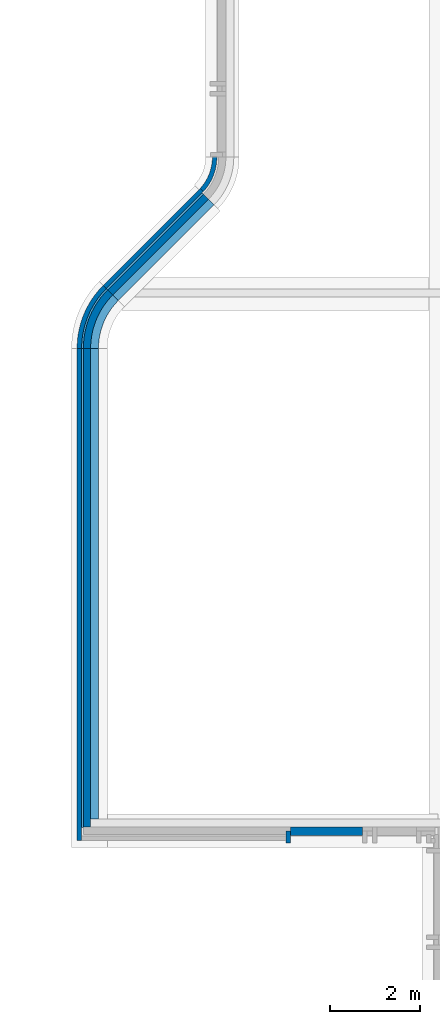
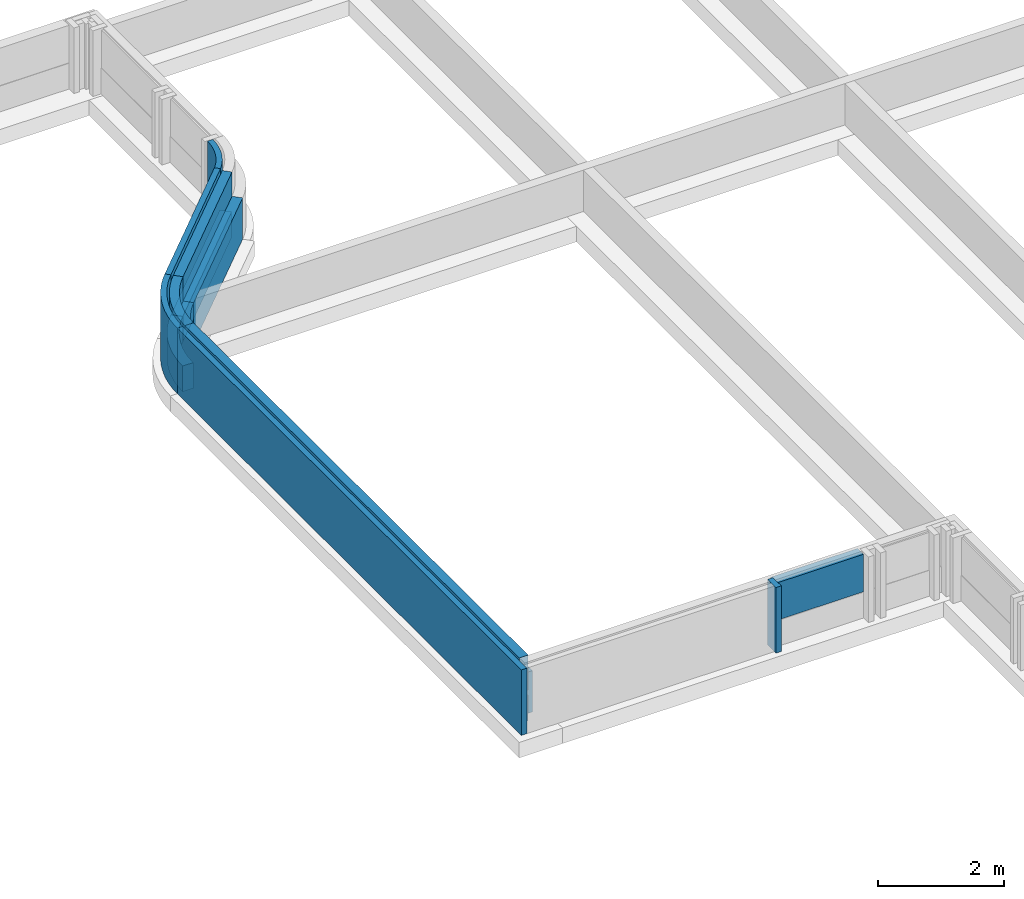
# One storey, part 2 of 15: 15 walls.
"""IFC2X3 building model written with IfcOpenShell, lengths in millimetres."""

from ifc_helpers import new_model, entity, si_unit, converted_unit, derived_unit, direction, frame, frame_2d, origin, place, context, subcontext, project, spatial, polyline, circle_curve, parameter, trimmed, segment, composite_curve, rectangle, outline, extrude, material, layer, layer_set, layer_usage, type_object, element, save


model = new_model("IFC2X3")

# Units and contexts
model_context = context("Model", 3, precision=0.01, world=origin(), true_north=direction((6.123031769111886e-17, 1.0)))
body_context = subcontext(model_context, "Body", "Model", "MODEL_VIEW")
ifc_project = project(units=[si_unit("LENGTHUNIT", "METRE", prefix="MILLI"), si_unit("AREAUNIT", "SQUARE_METRE"), si_unit("VOLUMEUNIT", "CUBIC_METRE"), converted_unit("PLANEANGLEUNIT", "DEGREE", entity("IfcRatioMeasure", 0.017453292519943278), si_unit("PLANEANGLEUNIT", "RADIAN"), dimensions=[0, 0, 0, 0, 0, 0, 0]), si_unit("MASSUNIT", "GRAM", prefix="KILO"), derived_unit("MASSDENSITYUNIT", [(si_unit("MASSUNIT", "GRAM", prefix="KILO"), 1), (si_unit("LENGTHUNIT", "METRE"), -3)]), derived_unit("IONCONCENTRATIONUNIT", [(si_unit("MASSUNIT", "GRAM", prefix="KILO"), 1), (si_unit("LENGTHUNIT", "METRE"), -3)]), derived_unit("MOMENTOFINERTIAUNIT", [(si_unit("LENGTHUNIT", "METRE"), 4)]), si_unit("TIMEUNIT", "SECOND"), si_unit("FREQUENCYUNIT", "HERTZ"), si_unit("THERMODYNAMICTEMPERATUREUNIT", "DEGREE_CELSIUS"), derived_unit("THERMALTRANSMITTANCEUNIT", [(si_unit("MASSUNIT", "GRAM", prefix="KILO"), 1), (si_unit("THERMODYNAMICTEMPERATUREUNIT", "KELVIN"), -1), (si_unit("TIMEUNIT", "SECOND"), -3)]), derived_unit("THERMALCONDUCTANCEUNIT", [(si_unit("MASSUNIT", "GRAM", prefix="KILO"), 1), (si_unit("THERMODYNAMICTEMPERATUREUNIT", "KELVIN"), -1), (si_unit("TIMEUNIT", "SECOND"), -3), (si_unit("LENGTHUNIT", "METRE"), 1)]), derived_unit("VOLUMETRICFLOWRATEUNIT", [(si_unit("LENGTHUNIT", "METRE"), 3), (si_unit("TIMEUNIT", "SECOND"), -1)]), derived_unit("MASSFLOWRATEUNIT", [(si_unit("MASSUNIT", "GRAM", prefix="KILO"), 1), (si_unit("TIMEUNIT", "SECOND"), -1)]), derived_unit("ROTATIONALFREQUENCYUNIT", [(si_unit("TIMEUNIT", "SECOND"), -1)]), si_unit("ELECTRICCURRENTUNIT", "AMPERE"), si_unit("ELECTRICVOLTAGEUNIT", "VOLT"), si_unit("POWERUNIT", "WATT"), si_unit("FORCEUNIT", "NEWTON", prefix="KILO"), si_unit("ILLUMINANCEUNIT", "LUX"), si_unit("LUMINOUSFLUXUNIT", "LUMEN"), si_unit("LUMINOUSINTENSITYUNIT", "CANDELA"), derived_unit("USERDEFINED", [(si_unit("MASSUNIT", "GRAM", prefix="KILO"), -1), (si_unit("LENGTHUNIT", "METRE"), -2), (si_unit("TIMEUNIT", "SECOND"), 3), (si_unit("LUMINOUSFLUXUNIT", "LUMEN"), 1)]), derived_unit("USERDEFINED", [(si_unit("MASSUNIT", "GRAM", prefix="KILO"), 1), (si_unit("TIMEUNIT", "SECOND"), -3), (si_unit("LENGTHUNIT", "METRE"), 3), (si_unit("ELECTRICCURRENTUNIT", "AMPERE"), -2)]), derived_unit("SOUNDPOWERUNIT", [(si_unit("MASSUNIT", "GRAM", prefix="KILO"), 1), (si_unit("TIMEUNIT", "SECOND"), -3), (si_unit("LENGTHUNIT", "METRE"), 2)]), derived_unit("SOUNDPRESSUREUNIT", [(si_unit("MASSUNIT", "GRAM", prefix="KILO"), 1), (si_unit("LENGTHUNIT", "METRE"), -1), (si_unit("TIMEUNIT", "SECOND"), -2)]), derived_unit("LINEARVELOCITYUNIT", [(si_unit("LENGTHUNIT", "METRE"), 1), (si_unit("TIMEUNIT", "SECOND"), -1)]), si_unit("PRESSUREUNIT", "PASCAL"), derived_unit("USERDEFINED", [(si_unit("MASSUNIT", "GRAM", prefix="KILO"), 1), (si_unit("LENGTHUNIT", "METRE"), -2), (si_unit("TIMEUNIT", "SECOND"), -2)]), derived_unit("LINEARFORCEUNIT", [(si_unit("MASSUNIT", "GRAM", prefix="KILO"), 1), (si_unit("TIMEUNIT", "SECOND"), -2)]), derived_unit("PLANARFORCEUNIT", [(si_unit("MASSUNIT", "GRAM", prefix="KILO"), 1), (si_unit("LENGTHUNIT", "METRE"), -1), (si_unit("TIMEUNIT", "SECOND"), -2)]), derived_unit("SPECIFICHEATCAPACITYUNIT", [(si_unit("THERMODYNAMICTEMPERATUREUNIT", "KELVIN"), -1), (si_unit("LENGTHUNIT", "METRE"), 2), (si_unit("TIMEUNIT", "SECOND"), -2)]), derived_unit("HEATINGVALUEUNIT", [(si_unit("LENGTHUNIT", "METRE"), 2), (si_unit("TIMEUNIT", "SECOND"), -2)]), derived_unit("VAPORPERMEABILITYUNIT", [(si_unit("LENGTHUNIT", "METRE"), -1), (si_unit("TIMEUNIT", "SECOND"), 1)]), derived_unit("DYNAMICVISCOSITYUNIT", [(si_unit("MASSUNIT", "GRAM", prefix="KILO"), 1), (si_unit("TIMEUNIT", "SECOND"), -1), (si_unit("LENGTHUNIT", "METRE"), -1)]), derived_unit("THERMALEXPANSIONCOEFFICIENTUNIT", [(si_unit("THERMODYNAMICTEMPERATUREUNIT", "KELVIN"), -1)]), derived_unit("MODULUSOFELASTICITYUNIT", [(si_unit("MASSUNIT", "GRAM", prefix="KILO"), 1), (si_unit("LENGTHUNIT", "METRE"), -1), (si_unit("TIMEUNIT", "SECOND"), -2)]), derived_unit("ISOTHERMALMOISTURECAPACITYUNIT", [(si_unit("LENGTHUNIT", "METRE"), 3), (si_unit("MASSUNIT", "GRAM", prefix="KILO"), -1)]), derived_unit("MOISTUREDIFFUSIVITYUNIT", [(si_unit("TIMEUNIT", "SECOND"), -1), (si_unit("LENGTHUNIT", "METRE"), 2)])], contexts=[model_context])

# Site, building, storey
site_placement = place(None, frame((0.0, 300.0, 0.0)))
site = spatial("IfcSite", under=ifc_project, at=site_placement, Name="<Kadastrale nummers>", CompositionType="ELEMENT")
building_placement = place(site_placement, origin())
building = spatial("IfcBuilding", under=site, at=building_placement, CompositionType="ELEMENT")
storey_placement = place(building_placement, frame((0.0, 0.0, -1570.0)))
storey = spatial("IfcBuildingStorey", under=building, at=storey_placement, Name="-1 fundering", CompositionType="ELEMENT", Elevation=-1570.0)

# Walls
ifc_material_1 = material(Name="ISR_Metselwerk")
ifc_layer_1 = layer(ifc_material_1, 100.0)
ifc_layer_set_1 = layer_set([ifc_layer_1], Name="Basic Wall:21_DAT_metselwerk_100")
ifc_layer_usage_1 = layer_usage(ifc_layer_set_1, "AXIS2", "POSITIVE", -50.0)
wall_type_1 = type_object("IfcWallType", Name="Basic Wall:21_DAT_metselwerk_100", PredefinedType="STANDARD", material=ifc_layer_set_1)
wall_1_placement = place(storey_placement, frame((28475.036916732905, 29669.262481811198, 300.0), z_axis=(0.0, 0.0, 1.0), x_axis=(0.0, -1.0, 0.0)))
element("IfcWallStandardCase", 1, at=wall_1_placement, inside=storey, type_object=wall_type_1, material=ifc_layer_usage_1, Name="Basic Wall:21_DAT_metselwerk_100", ObjectType="Basic Wall:21_DAT_metselwerk_100", context=body_context, shape_type="SweptSolid", body=[
    extrude(rectangle(XDim=10914.263858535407, YDim=100.00000000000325, at=frame_2d((5457.1319292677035, 8.206768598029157e-13), x_axis=(-1.0, 0.0))), origin(), (0.0, 0.0, 1.0), 1270.0000000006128),
])
wall_2_placement = place(storey_placement, frame((28475.036916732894, 29669.2624818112, 299.99997543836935)))
element("IfcWallStandardCase", 2, at=wall_2_placement, inside=storey, type_object=wall_type_1, material=ifc_layer_usage_1, Name="Basic Wall:21_DAT_metselwerk_100", ObjectType="Basic Wall:21_DAT_metselwerk_100", context=body_context, shape_type="SweptSolid", body=[
    extrude(outline(composite_curve([segment(trimmed(circle_curve(frame_2d((1925.0, 0.0), x_axis=(1.0, 0.0)), 1974.9999999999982), [parameter(135.00000000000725)], [parameter(179.99999999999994)], True, "PARAMETER"), True, "CONTINUOUS"), segment(polyline([(-50.0, 0.0), (50.0, 0.0)]), True, "CONTINUOUS"), segment(trimmed(circle_curve(frame_2d((1925.0, 0.0), x_axis=(1.0, 0.0)), 1874.9999999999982), [parameter(135.00000000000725)], [parameter(179.99999999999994)], True, "PARAMETER"), False, "CONTINUOUS"), segment(polyline([(599.1747852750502, 1325.8252147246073), (528.4641071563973, 1396.5358928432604)]), True, "CONTINUOUS")], self_intersect=False)), origin(), (0.0, 0.0, 1.0), 1270.000024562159),
])
ifc_layer_usage_2 = layer_usage(ifc_layer_set_1, "AXIS2", "NEGATIVE", 50.0)
wall_3_placement = place(storey_placement, frame((31188.995789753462, 33180.52959942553, 299.99997543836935)))
element("IfcWallStandardCase", 3, at=wall_3_placement, inside=storey, type_object=wall_type_1, material=ifc_layer_usage_2, Name="Basic Wall:21_DAT_metselwerk_100", ObjectType="Basic Wall:21_DAT_metselwerk_100", context=body_context, shape_type="SweptSolid", body=[
    extrude(outline(composite_curve([segment(trimmed(circle_curve(frame_2d((-788.9588730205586, 730.1841525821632), x_axis=(1.0, 0.0)), 1025.0), [parameter(317.32121279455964)], [parameter(7.124442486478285e-13)], True, "PARAMETER"), False, "CONTINUOUS"), segment(polyline([(-35.41411053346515, 35.34943055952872), (36.695761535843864, -33.962053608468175)]), True, "CONTINUOUS"), segment(trimmed(circle_curve(frame_2d((-788.9588730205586, 730.1841525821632), x_axis=(1.0, 0.0)), 1125.0), [parameter(317.2156338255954)], [parameter(4.579998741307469e-13)], True, "PARAMETER"), True, "CONTINUOUS"), segment(polyline([(336.04112697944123, 730.1841525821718), (236.0411269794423, 730.1841525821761)]), True, "CONTINUOUS")], self_intersect=False)), origin(), (0.0, 0.0, 1.0), 1270.000024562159),
])
wall_4_placement = place(storey_placement, frame((29038.856362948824, 31030.44303559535, 300.0), z_axis=(0.0, 0.0, 1.0), x_axis=(0.7071067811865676, 0.7071067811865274, 0.0)))
element("IfcWallStandardCase", 4, at=wall_4_placement, inside=storey, type_object=wall_type_1, material=ifc_layer_usage_2, Name="Basic Wall:21_DAT_metselwerk_100", ObjectType="Basic Wall:21_DAT_metselwerk_100", context=body_context, shape_type="SweptSolid", body=[
    extrude(outline(polyline([(3042.651982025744, -50.0), (3040.67322296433, 50.0), (0.0, 50.0), (0.0, -50.0), (3042.651982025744, -50.0)])), origin(), (0.0, 0.0, 1.0), 1270.0000000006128),
])
wall_5_placement = place(storey_placement, frame((33110.0, 18969.998623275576, 300.0), z_axis=(0.0, 0.0, 1.0), x_axis=(0.0, -1.0, 0.0)))
element("IfcWallStandardCase", 5, at=wall_5_placement, inside=storey, type_object=wall_type_1, material=ifc_layer_usage_1, Name="Basic Wall:21_DAT_metselwerk_100", ObjectType="Basic Wall:21_DAT_metselwerk_100", context=body_context, shape_type="SweptSolid", body=[
    extrude(rectangle(XDim=264.9999999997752, YDim=100.00000000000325, at=frame_2d((132.4999999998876, 4.192202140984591e-13), x_axis=(-1.0, 0.0))), origin(), (0.0, 0.0, 1.0), 1270.0000000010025),
])
ifc_material_2 = material(Name="ISR_Gips")
ifc_layer_2 = layer(ifc_material_2, 1.0)
ifc_material_3 = material(Name="ISR_Kalkzandsteen")
ifc_layer_3 = layer(ifc_material_3, 173.0)
ifc_layer_4 = layer(ifc_material_2, 1.0)
ifc_layer_set_2 = layer_set([ifc_layer_2, ifc_layer_3, ifc_layer_4], Name="Basic Wall:28_DAT_kalkzandsteen_175mm")
ifc_layer_usage_3 = layer_usage(ifc_layer_set_2, "AXIS2", "NEGATIVE", 87.49999999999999)
wall_type_2 = type_object("IfcWallType", Name="Basic Wall:28_DAT_kalkzandsteen_175mm", PredefinedType="STANDARD", material=ifc_layer_set_2)
wall_6_placement = place(storey_placement, frame((28812.536916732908, 19229.99862327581, 300.0), z_axis=(0.0, 0.0, 1.0), x_axis=(0.0, 1.0, 0.0)))
element("IfcWallStandardCase", 6, at=wall_6_placement, inside=storey, type_object=wall_type_2, material=ifc_layer_usage_3, Name="Basic Wall:28_DAT_kalkzandsteen_175mm", ObjectType="Basic Wall:28_DAT_kalkzandsteen_175mm", context=body_context, shape_type="SweptSolid", body=[
    extrude(rectangle(XDim=10439.263858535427, YDim=175.00000000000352, at=frame_2d((5219.6319292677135, -1.4210854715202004e-13), x_axis=(-1.0, 0.0))), origin(), (0.0, 0.0, 1.0), 800.0000000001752),
])
ifc_layer_usage_4 = layer_usage(ifc_layer_set_2, "AXIS2", "POSITIVE", -87.49999999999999)
wall_7_placement = place(storey_placement, frame((28812.5369167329, 29669.262481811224, 300.0)))
element("IfcWallStandardCase", 7, at=wall_7_placement, inside=storey, type_object=wall_type_2, material=ifc_layer_usage_4, Name="Basic Wall:28_DAT_kalkzandsteen_175mm", ObjectType="Basic Wall:28_DAT_kalkzandsteen_175mm", context=body_context, shape_type="SweptSolid", body=[
    extrude(outline(composite_curve([segment(trimmed(circle_curve(frame_2d((1587.4999999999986, 0.0), x_axis=(1.0, 0.0)), 1675.0), [parameter(135.00000000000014)], [parameter(180.00000000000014)], True, "PARAMETER"), True, "CONTINUOUS"), segment(polyline([(-87.50000000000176, 0.0), (87.49999999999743, 0.0)]), True, "CONTINUOUS"), segment(trimmed(circle_curve(frame_2d((1587.4999999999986, 0.0), x_axis=(1.0, 0.0)), 1500.0000000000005), [parameter(135.00000000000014)], [parameter(180.00000000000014)], True, "PARAMETER"), False, "CONTINUOUS"), segment(polyline([(526.8398282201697, 1060.6601717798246), (403.0961415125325, 1184.4038584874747)]), True, "CONTINUOUS")], self_intersect=False)), origin(), (0.0, 0.0, 1.0), 800.0000000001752),
])
wall_8_placement = place(storey_placement, frame((29277.504901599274, 30791.794496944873, 300.0), z_axis=(0.0, 0.0, 1.0), x_axis=(0.7071067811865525, 0.7071067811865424, 0.0)))
element("IfcWallStandardCase", 8, at=wall_8_placement, inside=storey, type_object=wall_type_2, material=ifc_layer_usage_3, Name="Basic Wall:28_DAT_kalkzandsteen_175mm", ObjectType="Basic Wall:28_DAT_kalkzandsteen_175mm", context=body_context, shape_type="SweptSolid", body=[
    extrude(rectangle(XDim=2999.999999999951, YDim=175.0, at=frame_2d((1499.9999999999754, -9.237055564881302e-14), x_axis=(-1.0, 0.0))), origin(), (0.0, 0.0, 1.0), 800.0000000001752),
])
ifc_material_4 = material(Name="ISR_Isolatie")
ifc_layer_5 = layer(ifc_material_4, 160.0)
ifc_layer_set_3 = layer_set([ifc_layer_5], Name="Basic Wall:21_DAT_isolatie minerale wol_160")
ifc_layer_usage_5 = layer_usage(ifc_layer_set_3, "AXIS2", "NEGATIVE", 80.0)
wall_type_3 = type_object("IfcWallType", Name="Basic Wall:21_DAT_isolatie minerale wol_160", PredefinedType="STANDARD", material=ifc_layer_set_3)
wall_9_placement = place(storey_placement, frame((28645.036916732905, 19054.99862327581, 900.0), z_axis=(0.0, 0.0, 1.0), x_axis=(0.0, 1.0, 0.0)))
element("IfcWallStandardCase", 9, at=wall_9_placement, inside=storey, type_object=wall_type_3, material=ifc_layer_usage_5, Name="Basic Wall:21_DAT_isolatie minerale wol_160", ObjectType="Basic Wall:21_DAT_isolatie minerale wol_160", context=body_context, shape_type="SweptSolid", body=[
    extrude(rectangle(XDim=10614.263858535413, YDim=159.99999999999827, at=frame_2d((5307.131929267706, 0.0), x_axis=(-1.0, 0.0))), origin(), (0.0, 0.0, 1.0), 670.0000000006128),
])
ifc_layer_usage_6 = layer_usage(ifc_layer_set_3, "AXIS2", "POSITIVE", -80.0)
wall_10_placement = place(storey_placement, frame((28645.0369167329, 29669.262481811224, 900.0)))
element("IfcWallStandardCase", 10, at=wall_10_placement, inside=storey, type_object=wall_type_3, material=ifc_layer_usage_6, Name="Basic Wall:21_DAT_isolatie minerale wol_160", ObjectType="Basic Wall:21_DAT_isolatie minerale wol_160", context=body_context, shape_type="SweptSolid", body=[
    extrude(outline(composite_curve([segment(trimmed(circle_curve(frame_2d((1755.0, 0.0), x_axis=(1.0, 0.0)), 1835.0000000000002), [parameter(134.9999999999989)], [parameter(180.0000000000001)], True, "PARAMETER"), True, "CONTINUOUS"), segment(polyline([(-80.0, 0.0), (80.0, 0.0)]), True, "CONTINUOUS"), segment(trimmed(circle_curve(frame_2d((1755.0, 0.0), x_axis=(1.0, 0.0)), 1675.0000000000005), [parameter(134.9999999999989)], [parameter(180.0000000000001)], True, "PARAMETER"), False, "CONTINUOUS"), segment(polyline([(570.5961415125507, 1184.4038584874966), (457.4590565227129, 1297.5409434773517)]), True, "CONTINUOUS")], self_intersect=False)), origin(), (0.0, 0.0, 1.0), 670.0000000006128),
])
wall_11_placement = place(storey_placement, frame((29159.06451575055, 30910.23488279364, 900.0), z_axis=(0.0, 0.0, 1.0), x_axis=(0.7071067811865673, 0.7071067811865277, 0.0)))
element("IfcWallStandardCase", 11, at=wall_11_placement, inside=storey, type_object=wall_type_3, material=ifc_layer_usage_5, Name="Basic Wall:21_DAT_isolatie minerale wol_160", ObjectType="Basic Wall:21_DAT_isolatie minerale wol_160", context=body_context, shape_type="SweptSolid", body=[
    extrude(rectangle(XDim=2999.999999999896, YDim=159.9999999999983, at=frame_2d((1499.999999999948, 6.608047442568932e-13), x_axis=(-1.0, 0.0))), origin(), (0.0, 0.0, 1.0), 670.0000000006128),
])
ifc_material_5 = material(Name="ISR_Beton_prefab")
ifc_layer_6 = layer(ifc_material_5, 15.0)
ifc_layer_7 = layer(ifc_material_4, 175.0)
ifc_layer_set_4 = layer_set([ifc_layer_6, ifc_layer_7], Name="Basic Wall:21_DAT_gevelplint 175")
ifc_layer_usage_7 = layer_usage(ifc_layer_set_4, "AXIS2", "POSITIVE", -95.00000000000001)
wall_type_4 = type_object("IfcWallType", Name="Basic Wall:21_DAT_gevelplint 175", PredefinedType="STANDARD", material=ifc_layer_set_4)
wall_12_placement = place(storey_placement, frame((33160.0, 18959.998623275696, 800.0)))
element("IfcWallStandardCase", 12, at=wall_12_placement, inside=storey, type_object=wall_type_4, material=ifc_layer_usage_7, Name="Basic Wall:21_DAT_gevelplint 175", ObjectType="Basic Wall:21_DAT_gevelplint 175", context=body_context, shape_type="SweptSolid", body=[
    extrude(rectangle(XDim=1595.0000000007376, YDim=190.0000000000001, at=frame_2d((797.5000000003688, 0.0), x_axis=(-1.0, 0.0))), origin(), (0.0, 0.0, 1.0), 725.0000000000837),
])
ifc_material_6 = material(Name="ISR_Speci ihwg(1)")
ifc_layer_8 = layer(ifc_material_6, 195.0)
ifc_layer_set_5 = layer_set([ifc_layer_8], Name="Basic Wall:28_DAT_ihw specie")
ifc_layer_usage_8 = layer_usage(ifc_layer_set_5, "AXIS2", "NEGATIVE", 97.5)
wall_type_5 = type_object("IfcWallType", Name="Basic Wall:28_DAT_ihw specie", PredefinedType="STANDARD", material=ifc_layer_set_5)
wall_13_placement = place(storey_placement, frame((28622.53691673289, 19049.99862327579, 300.0), z_axis=(0.0, 0.0, 1.0), x_axis=(0.0, 1.0, 0.0)))
element("IfcWallStandardCase", 13, at=wall_13_placement, inside=storey, type_object=wall_type_5, material=ifc_layer_usage_8, Name="Basic Wall:28_DAT_ihw specie", ObjectType="Basic Wall:28_DAT_ihw specie", context=body_context, shape_type="SweptSolid", body=[
    extrude(rectangle(XDim=10619.263858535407, YDim=194.99999999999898, at=frame_2d((5309.6319292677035, 0.0), x_axis=(-1.0, 0.0))), origin(), (0.0, 0.0, 1.0), 500.00000000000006),
])
ifc_layer_usage_9 = layer_usage(ifc_layer_set_5, "AXIS2", "POSITIVE", -97.5)
wall_14_placement = place(storey_placement, frame((28622.536916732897, 29669.262481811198, 300.0)))
element("IfcWallStandardCase", 14, at=wall_14_placement, inside=storey, type_object=wall_type_5, material=ifc_layer_usage_9, Name="Basic Wall:28_DAT_ihw specie", ObjectType="Basic Wall:28_DAT_ihw specie", context=body_context, shape_type="SweptSolid", body=[
    extrude(outline(composite_curve([segment(trimmed(circle_curve(frame_2d((1777.4999999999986, 0.0), x_axis=(1.0, 0.0)), 1874.9999999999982), [parameter(134.99999999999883)], [parameter(180.0000000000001)], True, "PARAMETER"), True, "CONTINUOUS"), segment(polyline([(-97.49999999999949, 0.0), (97.49999999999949, 0.0)]), True, "CONTINUOUS"), segment(trimmed(circle_curve(frame_2d((1777.4999999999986, 0.0), x_axis=(1.0, 0.0)), 1679.9999999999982), [parameter(134.99999999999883)], [parameter(180.0000000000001)], True, "PARAMETER"), False, "CONTINUOUS"), segment(polyline([(589.5606076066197, 1187.9393923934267), (451.67478527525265, 1325.8252147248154)]), True, "CONTINUOUS")], self_intersect=False)), origin(), (0.0, 0.0, 1.0), 500.00000000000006),
])
wall_15_placement = place(storey_placement, frame((29143.154613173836, 30926.14478537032, 300.0), z_axis=(0.0, 0.0, 1.0), x_axis=(0.7071067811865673, 0.7071067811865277, 0.0)))
element("IfcWallStandardCase", 15, at=wall_15_placement, inside=storey, type_object=wall_type_5, material=ifc_layer_usage_8, Name="Basic Wall:28_DAT_ihw specie", ObjectType="Basic Wall:28_DAT_ihw specie", context=body_context, shape_type="SweptSolid", body=[
    extrude(rectangle(XDim=2999.9999999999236, YDim=195.00000000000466, at=frame_2d((1499.9999999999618, -8.526512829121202e-13), x_axis=(-1.0, 0.0))), origin(), (0.0, 0.0, 1.0), 500.00000000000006),
])

save(model, "model.ifc")
